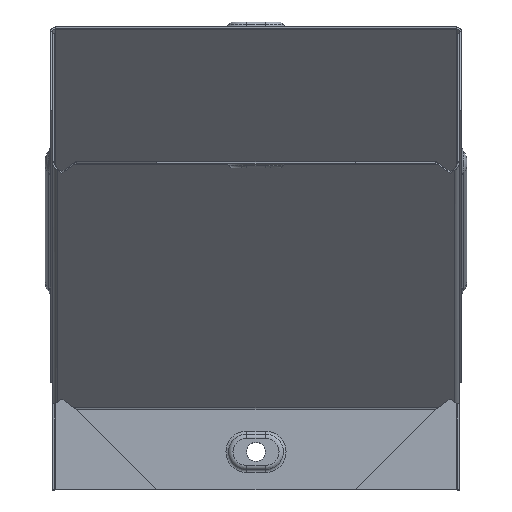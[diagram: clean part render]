
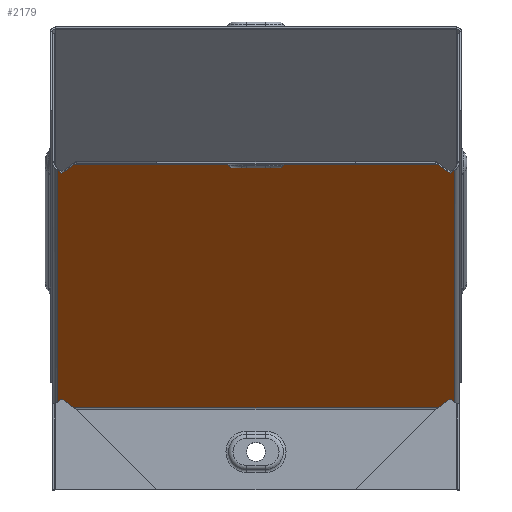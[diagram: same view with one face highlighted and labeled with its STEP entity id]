
A CAD part, top view. The second image highlights one B-rep face of the part: STEP entity #2179.
In plain terms, the highlighted planar face has unit normal (0, -0.707, 0.707).
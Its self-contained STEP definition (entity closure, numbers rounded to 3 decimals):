
#169 = DIRECTION ( 'NONE',  ( 0.707, -0.5, -0.5 ) ) ;
#254 = CARTESIAN_POINT ( 'NONE',  ( -67.181, -29.707, -59.707 ) ) ;
#403 = LINE ( 'NONE', #4854, #597 ) ;
#409 = ORIENTED_EDGE ( 'NONE', *, *, #3995, .T. ) ;
#438 = VERTEX_POINT ( 'NONE', #979 ) ;
#463 = EDGE_CURVE ( 'NONE', #7088, #606, #1831, .T. ) ;
#526 = CARTESIAN_POINT ( 'NONE',  ( -71.592, 56.588, 26.588 ) ) ;
#560 = VECTOR ( 'NONE', #5059, 1000. ) ;
#597 = VECTOR ( 'NONE', #169, 1000. ) ;
#606 = VERTEX_POINT ( 'NONE', #254 ) ;
#632 = ORIENTED_EDGE ( 'NONE', *, *, #4487, .T. ) ;
#693 = VERTEX_POINT ( 'NONE', #3492 ) ;
#695 = PLANE ( 'NONE',  #7396 ) ;
#735 = CARTESIAN_POINT ( 'NONE',  ( 75.299, 59.208, 29.208 ) ) ;
#737 = CARTESIAN_POINT ( 'NONE',  ( 71.592, 56.588, 26.588 ) ) ;
#905 = VERTEX_POINT ( 'NONE', #1495 ) ;
#906 = EDGE_CURVE ( 'NONE', #7337, #5383, #1735, .T. ) ;
#930 = VECTOR ( 'NONE', #4559, 1000. ) ;
#944 = CARTESIAN_POINT ( 'NONE',  ( 73.2, 60., 30. ) ) ;
#979 = CARTESIAN_POINT ( 'NONE',  ( -73.2, 57.724, 27.724 ) ) ;
#1185 = DIRECTION ( 'NONE',  ( 0., -0.707, -0.707 ) ) ;
#1266 = ORIENTED_EDGE ( 'NONE', *, *, #2148, .T. ) ;
#1303 = CARTESIAN_POINT ( 'NONE',  ( 75.299, -29.208, -59.208 ) ) ;
#1306 = ORIENTED_EDGE ( 'NONE', *, *, #2768, .T. ) ;
#1391 = VERTEX_POINT ( 'NONE', #7516 ) ;
#1483 = LINE ( 'NONE', #1534, #3312 ) ;
#1495 = CARTESIAN_POINT ( 'NONE',  ( 67.181, 59.707, 29.707 ) ) ;
#1534 = CARTESIAN_POINT ( 'NONE',  ( -75.299, -29.208, -59.208 ) ) ;
#1587 = CARTESIAN_POINT ( 'NONE',  ( 36.546, -51.369, -81.369 ) ) ;
#1606 = VECTOR ( 'NONE', #3047, 1000. ) ;
#1735 = LINE ( 'NONE', #944, #560 ) ;
#1795 = LINE ( 'NONE', #1303, #1606 ) ;
#1812 = DIRECTION ( 'NONE',  ( 0., 0.707, 0.707 ) ) ;
#1831 = LINE ( 'NONE', #6401, #6731 ) ;
#1854 = VECTOR ( 'NONE', #3379, 1000. ) ;
#1857 = CARTESIAN_POINT ( 'NONE',  ( -73.2, 60., 30. ) ) ;
#1877 = ORIENTED_EDGE ( 'NONE', *, *, #906, .F. ) ;
#1975 = LINE ( 'NONE', #1857, #3234 ) ;
#2148 = EDGE_CURVE ( 'NONE', #438, #693, #1975, .T. ) ;
#2179 = ADVANCED_FACE ( 'NONE', ( #5854 ), #695, .F. ) ;
#2212 = CARTESIAN_POINT ( 'NONE',  ( -36.546, 81.369, 51.369 ) ) ;
#2339 = ORIENTED_EDGE ( 'NONE', *, *, #6625, .T. ) ;
#2363 = CARTESIAN_POINT ( 'NONE',  ( 73.2, 60., 30. ) ) ;
#2403 = LINE ( 'NONE', #7144, #2966 ) ;
#2505 = CARTESIAN_POINT ( 'NONE',  ( 36.546, 81.369, 51.369 ) ) ;
#2516 = ORIENTED_EDGE ( 'NONE', *, *, #3244, .T. ) ;
#2532 = ORIENTED_EDGE ( 'NONE', *, *, #463, .F. ) ;
#2768 = EDGE_CURVE ( 'NONE', #905, #4399, #2403, .T. ) ;
#2966 = VECTOR ( 'NONE', #3605, 1000. ) ;
#3047 = DIRECTION ( 'NONE',  ( 0.707, -0.5, -0.5 ) ) ;
#3217 = ORIENTED_EDGE ( 'NONE', *, *, #3741, .T. ) ;
#3234 = VECTOR ( 'NONE', #1185, 1000. ) ;
#3244 = EDGE_CURVE ( 'NONE', #693, #1391, #1483, .T. ) ;
#3259 = CARTESIAN_POINT ( 'NONE',  ( 73.2, 57.724, 27.724 ) ) ;
#3312 = VECTOR ( 'NONE', #4868, 1000. ) ;
#3379 = DIRECTION ( 'NONE',  ( -0.707, -0.5, -0.5 ) ) ;
#3415 = CARTESIAN_POINT ( 'NONE',  ( -75.299, 59.208, 29.208 ) ) ;
#3492 = CARTESIAN_POINT ( 'NONE',  ( -73.2, -27.724, -57.724 ) ) ;
#3605 = DIRECTION ( 'NONE',  ( -1., 0., 0. ) ) ;
#3633 = ORIENTED_EDGE ( 'NONE', *, *, #7443, .T. ) ;
#3671 = DIRECTION ( 'NONE',  ( -0.707, -0.5, -0.5 ) ) ;
#3741 = EDGE_CURVE ( 'NONE', #7151, #905, #5628, .T. ) ;
#3990 = VECTOR ( 'NONE', #5115, 1000. ) ;
#3995 = EDGE_CURVE ( 'NONE', #4399, #6659, #7491, .T. ) ;
#4053 = CARTESIAN_POINT ( 'NONE',  ( 71.592, -26.588, -56.588 ) ) ;
#4165 = LINE ( 'NONE', #1587, #6877 ) ;
#4336 = EDGE_LOOP ( 'NONE', ( #632, #3217, #1306, #409, #2339, #1266, #2516, #6968, #2532, #3633, #6526, #1877 ) ) ;
#4391 = CARTESIAN_POINT ( 'NONE',  ( -67.181, 59.707, 29.707 ) ) ;
#4399 = VERTEX_POINT ( 'NONE', #4391 ) ;
#4487 = EDGE_CURVE ( 'NONE', #7337, #7151, #7493, .T. ) ;
#4488 = EDGE_CURVE ( 'NONE', #1391, #606, #403, .T. ) ;
#4559 = DIRECTION ( 'NONE',  ( -0.707, 0.5, 0.5 ) ) ;
#4674 = CARTESIAN_POINT ( 'NONE',  ( 73.2, -27.724, -57.724 ) ) ;
#4777 = DIRECTION ( 'NONE',  ( 0., 0.707, -0.707 ) ) ;
#4813 = VERTEX_POINT ( 'NONE', #4053 ) ;
#4854 = CARTESIAN_POINT ( 'NONE',  ( -36.546, -51.369, -81.369 ) ) ;
#4868 = DIRECTION ( 'NONE',  ( 0.707, 0.5, 0.5 ) ) ;
#5059 = DIRECTION ( 'NONE',  ( 0., -0.707, -0.707 ) ) ;
#5115 = DIRECTION ( 'NONE',  ( -0.707, 0.5, 0.5 ) ) ;
#5383 = VERTEX_POINT ( 'NONE', #4674 ) ;
#5628 = LINE ( 'NONE', #2505, #930 ) ;
#5854 = FACE_OUTER_BOUND ( 'NONE', #4336, .T. ) ;
#6401 = CARTESIAN_POINT ( 'NONE',  ( 73.2, -29.707, -59.707 ) ) ;
#6526 = ORIENTED_EDGE ( 'NONE', *, *, #7212, .T. ) ;
#6625 = EDGE_CURVE ( 'NONE', #6659, #438, #7149, .T. ) ;
#6659 = VERTEX_POINT ( 'NONE', #526 ) ;
#6731 = VECTOR ( 'NONE', #6942, 1000. ) ;
#6877 = VECTOR ( 'NONE', #7554, 1000. ) ;
#6942 = DIRECTION ( 'NONE',  ( -1., 0., 0. ) ) ;
#6968 = ORIENTED_EDGE ( 'NONE', *, *, #4488, .T. ) ;
#7088 = VERTEX_POINT ( 'NONE', #7159 ) ;
#7144 = CARTESIAN_POINT ( 'NONE',  ( 73.2, 59.707, 29.707 ) ) ;
#7149 = LINE ( 'NONE', #3415, #3990 ) ;
#7151 = VERTEX_POINT ( 'NONE', #737 ) ;
#7159 = CARTESIAN_POINT ( 'NONE',  ( 67.181, -29.707, -59.707 ) ) ;
#7212 = EDGE_CURVE ( 'NONE', #4813, #5383, #1795, .T. ) ;
#7305 = VECTOR ( 'NONE', #3671, 1000. ) ;
#7337 = VERTEX_POINT ( 'NONE', #3259 ) ;
#7396 = AXIS2_PLACEMENT_3D ( 'NONE', #2363, #4777, #1812 ) ;
#7443 = EDGE_CURVE ( 'NONE', #7088, #4813, #4165, .T. ) ;
#7491 = LINE ( 'NONE', #2212, #1854 ) ;
#7493 = LINE ( 'NONE', #735, #7305 ) ;
#7516 = CARTESIAN_POINT ( 'NONE',  ( -71.592, -26.588, -56.588 ) ) ;
#7554 = DIRECTION ( 'NONE',  ( 0.707, 0.5, 0.5 ) ) ;
